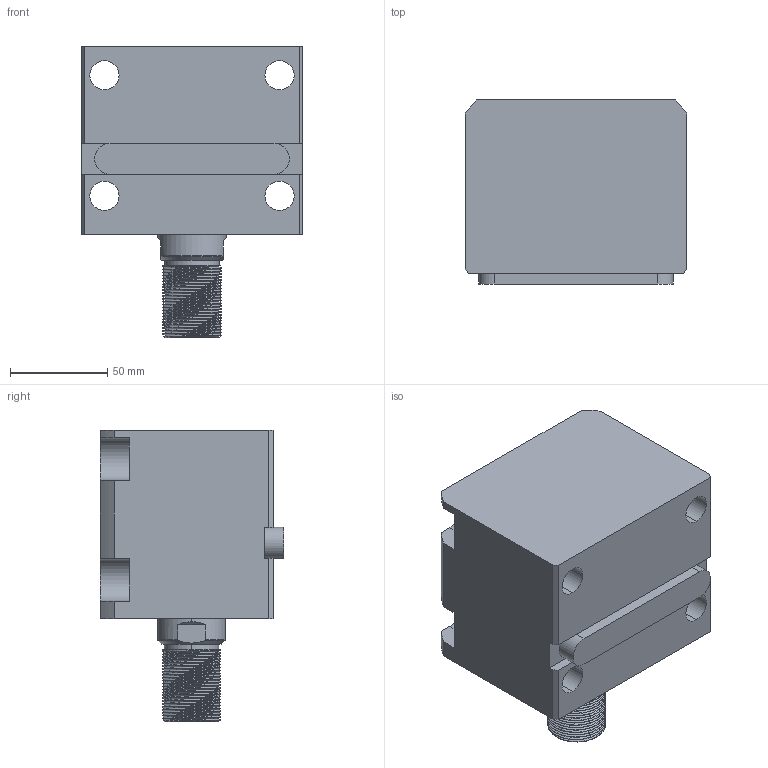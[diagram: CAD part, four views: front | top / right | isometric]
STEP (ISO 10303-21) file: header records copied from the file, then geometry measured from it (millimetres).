
FILE_DESCRIPTION (( 'STEP AP214' ), '1' );
FILE_NAME ('chtb-la63x30w_asm.STEP', '2018-05-17T02:59:22', ( 'Windows' ), ( 'Microsoft' ), 'SwSTEP 2.0', 'SolidWorks 2015', '' );
FILE_SCHEMA (( 'AUTOMOTIVE_DESIGN' ));
Length unit declared in the file: millimetre
Products named in the file (5): CHTB-LA63X30NBT; CHTB-LA63PJ; CHTB63X30WHSG; CHTB-63QG; chtb-la63x30w_asm
Assembly tree (4 placements, depth 2):
  chtb-la63x30w_asm
    CHTB-63QG
    CHTB63X30WHSG
    CHTB-LA63PJ
    CHTB-LA63X30NBT
Bounding box: 114 x 94.5 x 150 mm (x, y, z)
Volume: 879353.5 mm3; surface area: 143086.7 mm2
Topology: 4 solids, 4 shells, 228 faces, 670 edges, 457 vertices
Faces by surface type: cylinder 147, plane 48, bspline 14, cone 13, torus 6
Entity records: 22769 total; most frequent: CARTESIAN_POINT 17126, ORIENTED_EDGE 1332, DIRECTION 940, EDGE_CURVE 666, VERTEX_POINT 457, AXIS2_PLACEMENT_3D 350, EDGE_LOOP 253, VECTOR 240
